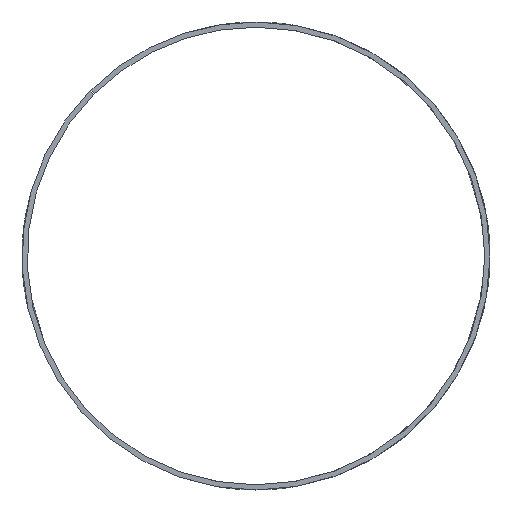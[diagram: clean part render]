
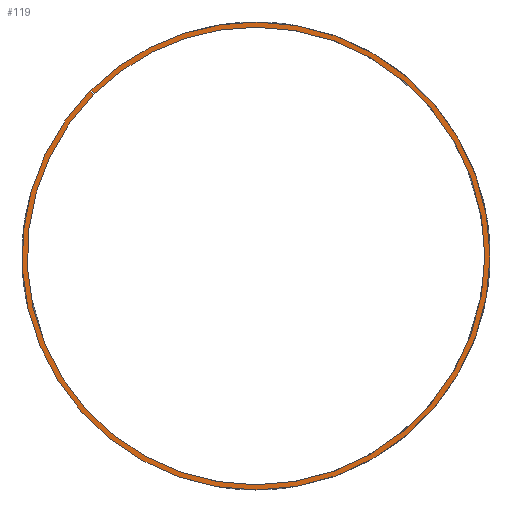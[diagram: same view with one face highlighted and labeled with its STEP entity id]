
A CAD part, front view. The second image highlights one B-rep face of the part: STEP entity #119.
In plain terms, the highlighted planar face has unit normal (0, -1, 0).
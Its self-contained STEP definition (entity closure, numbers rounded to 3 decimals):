
#21 = VERTEX_POINT ( 'NONE', #259 ) ;
#24 = FACE_OUTER_BOUND ( 'NONE', #1304, .T. ) ;
#83 = EDGE_CURVE ( 'NONE', #532, #1600, #407, .T. ) ;
#107 = VERTEX_POINT ( 'NONE', #1876 ) ;
#119 = ADVANCED_FACE ( 'NONE', ( #24 ), #1505, .T. ) ;
#149 = CARTESIAN_POINT ( 'NONE',  ( -198.155, 0., 198.862 ) ) ;
#179 = CARTESIAN_POINT ( 'NONE',  ( 0., 0., 0. ) ) ;
#207 = CARTESIAN_POINT ( 'NONE',  ( 220., 0., 0. ) ) ;
#235 = EDGE_CURVE ( 'NONE', #821, #1516, #756, .T. ) ;
#259 = CARTESIAN_POINT ( 'NONE',  ( 0., 0., -225. ) ) ;
#327 = DIRECTION ( 'NONE',  ( 0., 0., -1. ) ) ;
#354 = AXIS2_PLACEMENT_3D ( 'NONE', #770, #1802, #925 ) ;
#388 = EDGE_CURVE ( 'NONE', #560, #107, #1796, .T. ) ;
#407 = LINE ( 'NONE', #1178, #882 ) ;
#431 = ORIENTED_EDGE ( 'NONE', *, *, #1138, .T. ) ;
#448 = ORIENTED_EDGE ( 'NONE', *, *, #1067, .F. ) ;
#489 = CARTESIAN_POINT ( 'NONE',  ( 0., 0., -220. ) ) ;
#501 = EDGE_CURVE ( 'NONE', #21, #825, #624, .T. ) ;
#516 = ORIENTED_EDGE ( 'NONE', *, *, #83, .T. ) ;
#517 = DIRECTION ( 'NONE',  ( 0., -1., 0. ) ) ;
#532 = VERTEX_POINT ( 'NONE', #1225 ) ;
#560 = VERTEX_POINT ( 'NONE', #489 ) ;
#562 = CARTESIAN_POINT ( 'NONE',  ( 0., 0., 0. ) ) ;
#624 = CIRCLE ( 'NONE', #354, 225. ) ;
#639 = CARTESIAN_POINT ( 'NONE',  ( 0., 0., 0. ) ) ;
#656 = AXIS2_PLACEMENT_3D ( 'NONE', #179, #1213, #327 ) ;
#683 = ORIENTED_EDGE ( 'NONE', *, *, #1474, .F. ) ;
#704 = DIRECTION ( 'NONE',  ( 0., 0., -1. ) ) ;
#717 = ORIENTED_EDGE ( 'NONE', *, *, #235, .T. ) ;
#756 = LINE ( 'NONE', #149, #1147 ) ;
#770 = CARTESIAN_POINT ( 'NONE',  ( 0., 0., 0. ) ) ;
#771 = DIRECTION ( 'NONE',  ( 0., 0., -1. ) ) ;
#780 = ORIENTED_EDGE ( 'NONE', *, *, #388, .F. ) ;
#783 = CARTESIAN_POINT ( 'NONE',  ( 0., 0., 0. ) ) ;
#789 = DIRECTION ( 'NONE',  ( 0., 0., -1. ) ) ;
#821 = VERTEX_POINT ( 'NONE', #1490 ) ;
#825 = VERTEX_POINT ( 'NONE', #1853 ) ;
#836 = AXIS2_PLACEMENT_3D ( 'NONE', #562, #1585, #704 ) ;
#870 = CIRCLE ( 'NONE', #1868, 220. ) ;
#882 = VECTOR ( 'NONE', #1582, 1000. ) ;
#925 = DIRECTION ( 'NONE',  ( 0., 0., -1. ) ) ;
#940 = DIRECTION ( 'NONE',  ( 0., 0., -1. ) ) ;
#1036 = DIRECTION ( 'NONE',  ( 0.707, 0., -0.707 ) ) ;
#1067 = EDGE_CURVE ( 'NONE', #532, #560, #1096, .T. ) ;
#1093 = DIRECTION ( 'NONE',  ( 0., -1., 0. ) ) ;
#1096 = CIRCLE ( 'NONE', #656, 220. ) ;
#1138 = EDGE_CURVE ( 'NONE', #825, #821, #1414, .T. ) ;
#1147 = VECTOR ( 'NONE', #1036, 1000. ) ;
#1178 = CARTESIAN_POINT ( 'NONE',  ( -136.738, 0., 136.031 ) ) ;
#1213 = DIRECTION ( 'NONE',  ( 0., -1., 0. ) ) ;
#1225 = CARTESIAN_POINT ( 'NONE',  ( -155.917, 0., 155.21 ) ) ;
#1257 = CARTESIAN_POINT ( 'NONE',  ( -159.452, 0., 158.745 ) ) ;
#1304 = EDGE_LOOP ( 'NONE', ( #717, #683, #780, #448, #516, #1341, #1814, #431 ) ) ;
#1308 = CIRCLE ( 'NONE', #1683, 225. ) ;
#1331 = AXIS2_PLACEMENT_3D ( 'NONE', #639, #1671, #789 ) ;
#1341 = ORIENTED_EDGE ( 'NONE', *, *, #1555, .T. ) ;
#1395 = CARTESIAN_POINT ( 'NONE',  ( 0., 0., 0. ) ) ;
#1414 = CIRCLE ( 'NONE', #1331, 225. ) ;
#1474 = EDGE_CURVE ( 'NONE', #107, #1516, #870, .T. ) ;
#1490 = CARTESIAN_POINT ( 'NONE',  ( -158.745, 0., 159.452 ) ) ;
#1505 = PLANE ( 'NONE',  #1623 ) ;
#1514 = CARTESIAN_POINT ( 'NONE',  ( -155.21, 0., 155.917 ) ) ;
#1516 = VERTEX_POINT ( 'NONE', #1514 ) ;
#1537 = DIRECTION ( 'NONE',  ( 0., 0., -1. ) ) ;
#1555 = EDGE_CURVE ( 'NONE', #1600, #21, #1308, .T. ) ;
#1582 = DIRECTION ( 'NONE',  ( -0.707, 0., 0.707 ) ) ;
#1585 = DIRECTION ( 'NONE',  ( 0., -1., 0. ) ) ;
#1600 = VERTEX_POINT ( 'NONE', #1257 ) ;
#1623 = AXIS2_PLACEMENT_3D ( 'NONE', #207, #1093, #771 ) ;
#1671 = DIRECTION ( 'NONE',  ( 0., -1., 0. ) ) ;
#1683 = AXIS2_PLACEMENT_3D ( 'NONE', #1395, #517, #1537 ) ;
#1796 = CIRCLE ( 'NONE', #836, 220. ) ;
#1802 = DIRECTION ( 'NONE',  ( 0., -1., 0. ) ) ;
#1811 = DIRECTION ( 'NONE',  ( 0., -1., 0. ) ) ;
#1814 = ORIENTED_EDGE ( 'NONE', *, *, #501, .T. ) ;
#1853 = CARTESIAN_POINT ( 'NONE',  ( 0., 0., 225. ) ) ;
#1868 = AXIS2_PLACEMENT_3D ( 'NONE', #783, #1811, #940 ) ;
#1876 = CARTESIAN_POINT ( 'NONE',  ( 0., 0., 220. ) ) ;
